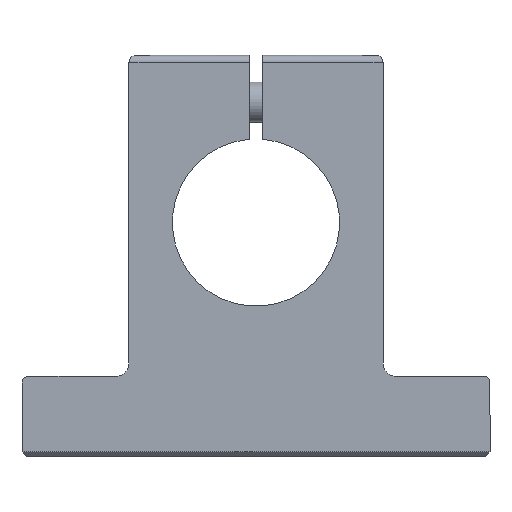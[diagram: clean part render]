
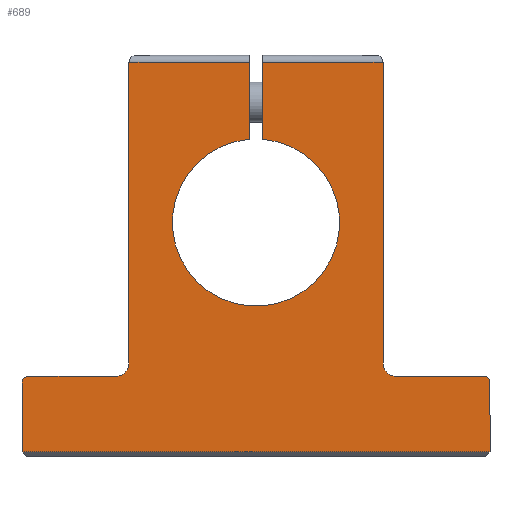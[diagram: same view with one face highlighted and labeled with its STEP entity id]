
A CAD part, left-side view. The second image highlights one B-rep face of the part: STEP entity #689.
In plain terms, the highlighted planar face has unit normal (-1, 0, 0).
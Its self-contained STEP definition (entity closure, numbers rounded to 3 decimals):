
#441=CARTESIAN_POINT('',(0.0,1.,24.));
#442=VERTEX_POINT('',#441);
#460=CARTESIAN_POINT('',(0.0,19.0,24.));
#461=VERTEX_POINT('',#460);
#469=CARTESIAN_POINT('',(0.0,19.0,24.));
#470=DIRECTION('',(0.0,-1.0,0.0));
#471=VECTOR('',#470,18.);
#472=LINE('',#469,#471);
#473=EDGE_CURVE('',#461,#442,#472,.T.);
#559=CARTESIAN_POINT('',(0.0,0.,-6.539));
#560=DIRECTION('',(1.0,0.0,0.0));
#561=DIRECTION('',(0.0,0.0,-1.0));
#562=AXIS2_PLACEMENT_3D('',#559,#560,#561);
#563=PLANE('',#562);
#564=ORIENTED_EDGE('',*,*,#473,.F.);
#565=CARTESIAN_POINT('',(0.0,19.,-21.));
#566=VERTEX_POINT('',#565);
#567=CARTESIAN_POINT('',(0.0,19.,-21.));
#568=DIRECTION('',(0.0,0.0,1.0));
#569=VECTOR('',#568,45.);
#570=LINE('',#567,#569);
#571=EDGE_CURVE('',#566,#461,#570,.T.);
#572=ORIENTED_EDGE('',*,*,#571,.F.);
#573=CARTESIAN_POINT('',(0.0,21.0,-23.));
#574=VERTEX_POINT('',#573);
#575=CARTESIAN_POINT('',(0.0,21.0,-21.));
#576=DIRECTION('',(-1.,0.0,0.0));
#577=DIRECTION('',(0.0,-0.707,-0.707));
#578=AXIS2_PLACEMENT_3D('',#575,#576,#577);
#579=CIRCLE('',#578,2.);
#580=EDGE_CURVE('',#574,#566,#579,.T.);
#581=ORIENTED_EDGE('',*,*,#580,.F.);
#582=CARTESIAN_POINT('',(0.0,34.0,-23.));
#583=VERTEX_POINT('',#582);
#584=CARTESIAN_POINT('',(0.0,34.0,-23.));
#585=DIRECTION('',(0.0,-1.0,0.0));
#586=VECTOR('',#585,13.0);
#587=LINE('',#584,#586);
#588=EDGE_CURVE('',#583,#574,#587,.T.);
#589=ORIENTED_EDGE('',*,*,#588,.F.);
#590=CARTESIAN_POINT('',(0.0,35.0,-24.));
#591=VERTEX_POINT('',#590);
#592=CARTESIAN_POINT('',(0.0,34.0,-24.));
#593=DIRECTION('',(1.0,0.0,0.0));
#594=DIRECTION('',(0.0,0.707,0.707));
#595=AXIS2_PLACEMENT_3D('',#592,#593,#594);
#596=CIRCLE('',#595,1.);
#597=EDGE_CURVE('',#591,#583,#596,.T.);
#598=ORIENTED_EDGE('',*,*,#597,.F.);
#599=CARTESIAN_POINT('',(0.0,35.,-34.3));
#600=VERTEX_POINT('',#599);
#601=CARTESIAN_POINT('',(0.0,35.,-34.3));
#602=DIRECTION('',(0.0,0.0,1.0));
#603=VECTOR('',#602,10.3);
#604=LINE('',#601,#603);
#605=EDGE_CURVE('',#600,#591,#604,.T.);
#606=ORIENTED_EDGE('',*,*,#605,.F.);
#607=CARTESIAN_POINT('',(0.0,-35.,-34.3));
#608=VERTEX_POINT('',#607);
#609=CARTESIAN_POINT('',(0.0,-35.,-34.3));
#610=DIRECTION('',(0.0,1.0,0.0));
#611=VECTOR('',#610,70.);
#612=LINE('',#609,#611);
#613=EDGE_CURVE('',#608,#600,#612,.T.);
#614=ORIENTED_EDGE('',*,*,#613,.F.);
#615=CARTESIAN_POINT('',(0.0,-35.0,-23.5));
#616=VERTEX_POINT('',#615);
#617=CARTESIAN_POINT('',(0.0,-35.0,-23.5));
#618=DIRECTION('',(0.0,0.0,-1.0));
#619=VECTOR('',#618,10.8);
#620=LINE('',#617,#619);
#621=EDGE_CURVE('',#616,#608,#620,.T.);
#622=ORIENTED_EDGE('',*,*,#621,.F.);
#623=CARTESIAN_POINT('',(0.0,-34.5,-23.));
#624=VERTEX_POINT('',#623);
#625=CARTESIAN_POINT('',(0.0,-34.5,-23.));
#626=DIRECTION('',(0.0,-0.707,-0.707));
#627=VECTOR('',#626,0.707);
#628=LINE('',#625,#627);
#629=EDGE_CURVE('',#624,#616,#628,.T.);
#630=ORIENTED_EDGE('',*,*,#629,.F.);
#631=CARTESIAN_POINT('',(0.0,-21.,-23.));
#632=VERTEX_POINT('',#631);
#633=CARTESIAN_POINT('',(0.0,-21.,-23.));
#634=DIRECTION('',(0.0,-1.0,0.0));
#635=VECTOR('',#634,13.5);
#636=LINE('',#633,#635);
#637=EDGE_CURVE('',#632,#624,#636,.T.);
#638=ORIENTED_EDGE('',*,*,#637,.F.);
#639=CARTESIAN_POINT('',(0.0,-19.,-21.));
#640=VERTEX_POINT('',#639);
#641=CARTESIAN_POINT('',(0.0,-21.,-21.));
#642=DIRECTION('',(-1.,0.0,0.0));
#643=DIRECTION('',(0.0,0.707,-0.707));
#644=AXIS2_PLACEMENT_3D('',#641,#642,#643);
#645=CIRCLE('',#644,2.);
#646=EDGE_CURVE('',#640,#632,#645,.T.);
#647=ORIENTED_EDGE('',*,*,#646,.F.);
#648=CARTESIAN_POINT('',(0.0,-19.0,24.));
#649=VERTEX_POINT('',#648);
#650=CARTESIAN_POINT('',(0.0,-19.0,24.));
#651=DIRECTION('',(0.0,0.0,-1.0));
#652=VECTOR('',#651,45.);
#653=LINE('',#650,#652);
#654=EDGE_CURVE('',#649,#640,#653,.T.);
#655=ORIENTED_EDGE('',*,*,#654,.F.);
#656=CARTESIAN_POINT('',(0.0,-1.,24.));
#657=VERTEX_POINT('',#656);
#658=CARTESIAN_POINT('',(0.0,-1.,24.));
#659=DIRECTION('',(0.0,-1.0,0.0));
#660=VECTOR('',#659,18.);
#661=LINE('',#658,#660);
#662=EDGE_CURVE('',#657,#649,#661,.T.);
#663=ORIENTED_EDGE('',*,*,#662,.F.);
#664=CARTESIAN_POINT('',(0.0,-1.,12.46));
#665=VERTEX_POINT('',#664);
#666=CARTESIAN_POINT('',(0.0,-1.,12.46));
#667=DIRECTION('',(0.0,0.0,1.0));
#668=VECTOR('',#667,11.54);
#669=LINE('',#666,#668);
#670=EDGE_CURVE('',#665,#657,#669,.T.);
#671=ORIENTED_EDGE('',*,*,#670,.F.);
#672=CARTESIAN_POINT('',(0.0,1.,12.46));
#673=VERTEX_POINT('',#672);
#674=CARTESIAN_POINT('',(0.0,0.0,0.0));
#675=DIRECTION('',(-1.0,0.0,0.0));
#676=DIRECTION('',(0.0,-1.0,0.0));
#677=AXIS2_PLACEMENT_3D('',#674,#675,#676);
#678=CIRCLE('',#677,12.5);
#679=EDGE_CURVE('',#673,#665,#678,.T.);
#680=ORIENTED_EDGE('',*,*,#679,.F.);
#681=CARTESIAN_POINT('',(0.0,1.,24.));
#682=DIRECTION('',(0.0,0.0,-1.0));
#683=VECTOR('',#682,11.54);
#684=LINE('',#681,#683);
#685=EDGE_CURVE('',#442,#673,#684,.T.);
#686=ORIENTED_EDGE('',*,*,#685,.F.);
#687=EDGE_LOOP('',(#564,#572,#581,#589,#598,#606,#614,#622,#630,#638,#647,#655,#663,#671,#680,#686));
#688=FACE_OUTER_BOUND('',#687,.T.);
#689=ADVANCED_FACE('',(#688),#563,.F.);
